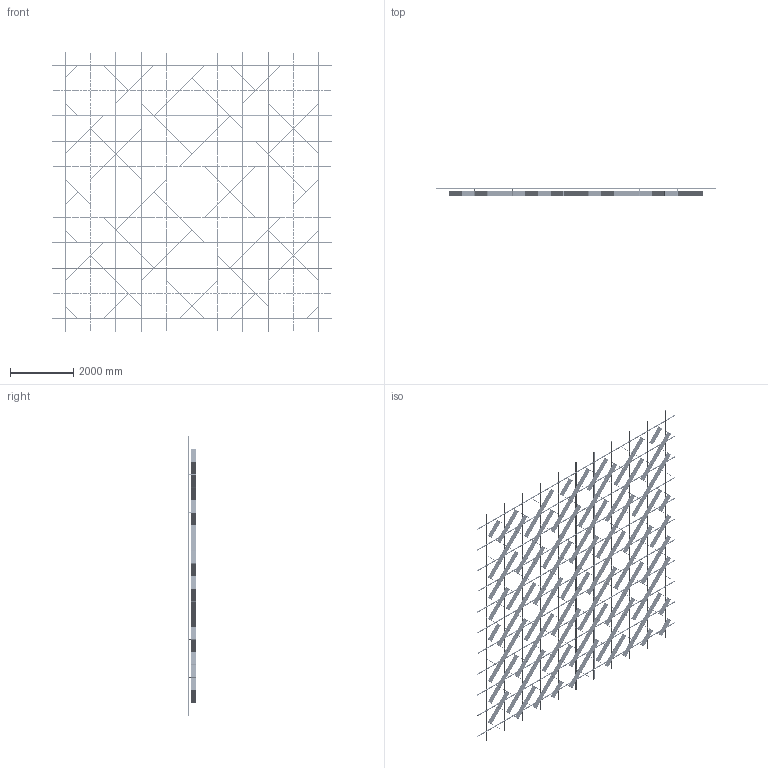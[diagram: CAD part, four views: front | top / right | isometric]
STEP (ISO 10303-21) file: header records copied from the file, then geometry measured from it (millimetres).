
FILE_DESCRIPTION (( 'STEP AP214' ), '1' );
FILE_NAME ('OPT_Var19.STEP', '2024-04-26T07:07:29', ( '' ), ( '' ), 'SwSTEP 2.0', 'SolidWorks 2020', '' );
FILE_SCHEMA (( 'AUTOMOTIVE_DESIGN' ));
Length unit declared in the file: millimetre
Products named in the file (5): Varp19; Ñèñòåìà â çîíå 8000õ8000; SS.SEMA.2400 - Ñèìà-ïðîôèëü; SS.SEMA.2400 - Ñèìà-ïðîôèëü — îáðåçàí 1600; OPT_Var19
Assembly tree (90 placements, depth 3):
  OPT_Var19
    Ñèñòåìà â çîíå 8000õ8000
      SS.SEMA.2400 - Ñèìà-ïðîôèëü  x66
      SS.SEMA.2400 - Ñèìà-ïðîôèëü — îáðåçàí 1600  x22
    Varp19
Bounding box: 8800 x 253 x 8800 mm (x, y, z)
Volume: 229943909.4 mm3; surface area: 91174746.8 mm2
Topology: 1432 solids, 1432 shells, 24660 faces, 63980 edges, 42184 vertices
Faces by surface type: cylinder 13618, plane 11042
Entity records: 230249 total; most frequent: CARTESIAN_POINT 71994, ORIENTED_EDGE 34808, DIRECTION 18674, EDGE_CURVE 17404, B_SPLINE_CURVE_WITH_KNOTS 12896, VERTEX_POINT 11592, AXIS2_PLACEMENT_3D 9088, EDGE_LOOP 8666
